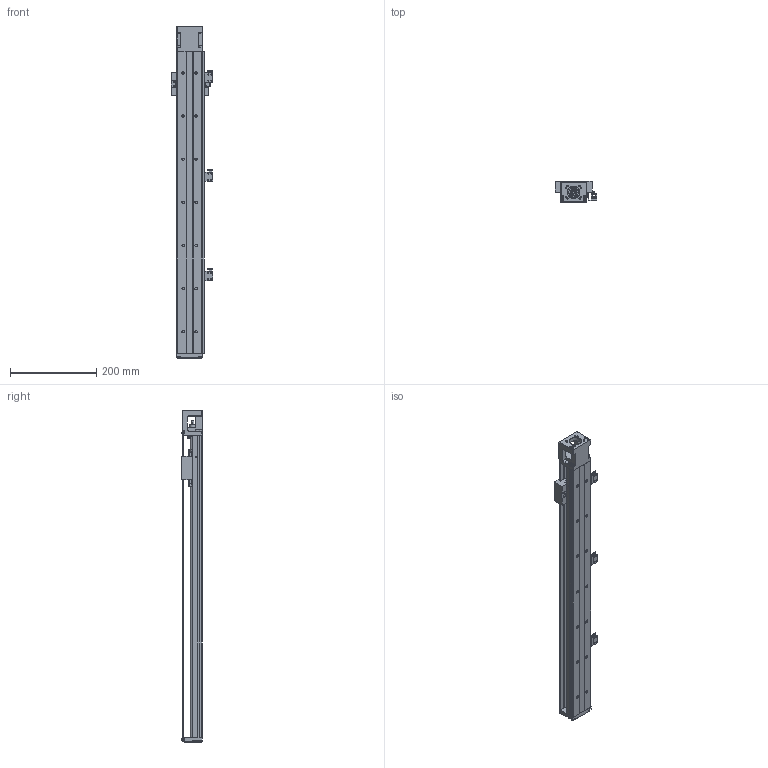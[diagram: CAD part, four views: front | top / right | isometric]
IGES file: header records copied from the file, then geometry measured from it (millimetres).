
Start section: SolidWorks IGES file using analytic representation for surfaces
Bounding box: 97.3 x 48 x 770 mm (x, y, z)
Surface area: 381990.8 mm2 (no closed solid volume)
Topology: 0 solids, 0 shells, 1819 faces, 21563 edges, 21418 vertices
Faces by surface type: bspline 1051, revolution 768
